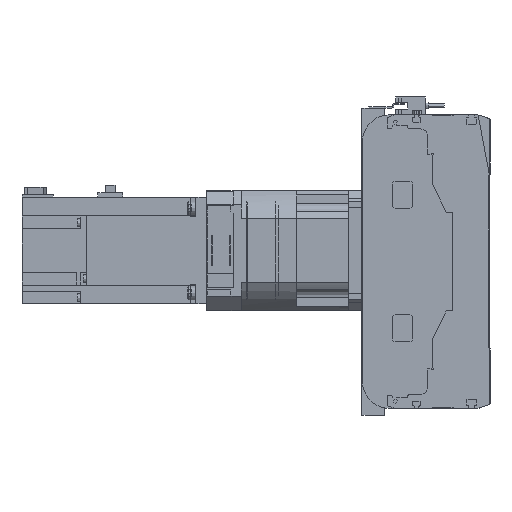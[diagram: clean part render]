
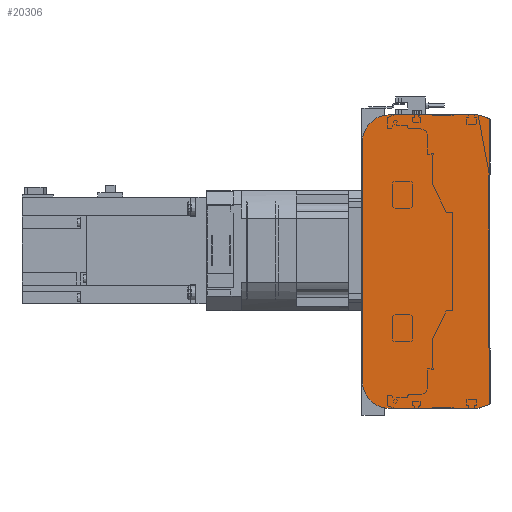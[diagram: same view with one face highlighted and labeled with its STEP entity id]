
A CAD part, left-side view. The second image highlights one B-rep face of the part: STEP entity #20306.
In plain terms, the highlighted planar face has unit normal (-1, 0, 0).
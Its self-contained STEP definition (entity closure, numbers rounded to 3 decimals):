
#1172=CIRCLE('',#22111,20.);
#1173=CIRCLE('',#22114,20.);
#4946=ORIENTED_EDGE('',*,*,#8776,.F.);
#4947=ORIENTED_EDGE('',*,*,#8818,.F.);
#4948=ORIENTED_EDGE('',*,*,#8816,.F.);
#4949=ORIENTED_EDGE('',*,*,#8814,.F.);
#4950=ORIENTED_EDGE('',*,*,#8803,.F.);
#4951=ORIENTED_EDGE('',*,*,#8794,.F.);
#4952=ORIENTED_EDGE('',*,*,#8790,.F.);
#4953=ORIENTED_EDGE('',*,*,#8787,.F.);
#8776=EDGE_CURVE('',#11035,#11036,#12859,.T.);
#8787=EDGE_CURVE('',#11036,#11043,#12870,.T.);
#8790=EDGE_CURVE('',#11043,#11045,#12873,.T.);
#8794=EDGE_CURVE('',#11045,#11046,#12877,.T.);
#8803=EDGE_CURVE('',#11046,#11052,#12886,.T.);
#8814=EDGE_CURVE('',#11052,#11059,#1172,.T.);
#8816=EDGE_CURVE('',#11059,#11060,#12898,.T.);
#8818=EDGE_CURVE('',#11060,#11035,#1173,.T.);
#11035=VERTEX_POINT('',#33773);
#11036=VERTEX_POINT('',#33775);
#11043=VERTEX_POINT('',#33794);
#11045=VERTEX_POINT('',#33800);
#11046=VERTEX_POINT('',#33806);
#11052=VERTEX_POINT('',#33822);
#11059=VERTEX_POINT('',#33841);
#11060=VERTEX_POINT('',#33845);
#12859=LINE('',#33774,#14462);
#12870=LINE('',#33793,#14473);
#12873=LINE('',#33799,#14476);
#12877=LINE('',#33805,#14480);
#12886=LINE('',#33821,#14489);
#12898=LINE('',#33844,#14501);
#14462=VECTOR('',#26706,1000.);
#14473=VECTOR('',#26719,1000.);
#14476=VECTOR('',#26724,1000.);
#14480=VECTOR('',#26730,1000.);
#14489=VECTOR('',#26741,1000.);
#14501=VECTOR('',#26759,1000.);
#15886=EDGE_LOOP('',(#4946,#4947,#4948,#4949,#4950,#4951,#4952,#4953));
#17906=FACE_BOUND('',#15886,.T.);
#19365=PLANE('',#22115);
#20306=ADVANCED_FACE('',(#17906),#19365,.F.);
#22111=AXIS2_PLACEMENT_3D('',#33840,#26754,#26755);
#22114=AXIS2_PLACEMENT_3D('',#33848,#26763,#26764);
#22115=AXIS2_PLACEMENT_3D('',#33849,#26765,#26766);
#26706=DIRECTION('',(0.,-1.,0.));
#26719=DIRECTION('',(0.,-0.945,-0.328));
#26724=DIRECTION('',(0.,0.,-1.));
#26730=DIRECTION('',(0.,0.945,-0.328));
#26741=DIRECTION('',(0.,1.,0.));
#26754=DIRECTION('',(1.,0.,0.));
#26755=DIRECTION('',(0.,0.,-1.));
#26759=DIRECTION('',(0.,0.,1.));
#26763=DIRECTION('',(1.,0.,0.));
#26764=DIRECTION('',(0.,0.,-1.));
#26765=DIRECTION('',(1.,0.,0.));
#26766=DIRECTION('',(0.,0.,-1.));
#33773=CARTESIAN_POINT('',(0.,75.5,110.));
#33774=CARTESIAN_POINT('',(0.,75.5,110.));
#33775=CARTESIAN_POINT('',(0.,9.,110.));
#33793=CARTESIAN_POINT('',(0.,9.,110.));
#33794=CARTESIAN_POINT('',(0.,0.5,107.05));
#33799=CARTESIAN_POINT('',(0.,0.5,107.05));
#33800=CARTESIAN_POINT('',(0.,0.5,-107.05));
#33805=CARTESIAN_POINT('',(0.,0.5,-107.05));
#33806=CARTESIAN_POINT('',(0.,9.,-110.));
#33821=CARTESIAN_POINT('',(0.,9.,-110.));
#33822=CARTESIAN_POINT('',(0.,75.5,-110.));
#33840=CARTESIAN_POINT('',(0.,75.5,-90.));
#33841=CARTESIAN_POINT('',(0.,95.5,-90.));
#33844=CARTESIAN_POINT('',(0.,95.5,-90.));
#33845=CARTESIAN_POINT('',(0.,95.5,90.));
#33848=CARTESIAN_POINT('',(0.,75.5,90.));
#33849=CARTESIAN_POINT('',(0.,75.5,-90.));
